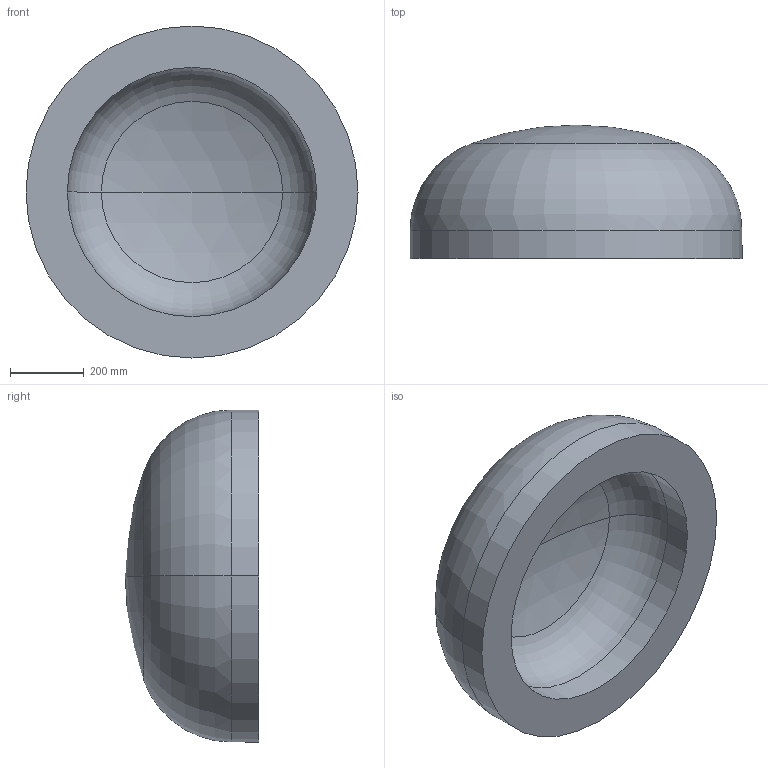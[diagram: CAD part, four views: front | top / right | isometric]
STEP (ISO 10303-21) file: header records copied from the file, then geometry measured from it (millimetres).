
FILE_DESCRIPTION (( 'STEP AP203' ), '1' );
FILE_NAME ('DIN 28013 Korbbogenform_-_Boden DIN 28013 - 900 x 75 - I - s=112.step', '2016-07-01T08:39:31', ( '' ), ( '' ), 'SwSTEP 2.0', 'SolidWorks 2013', '' );
FILE_SCHEMA (( 'CONFIG_CONTROL_DESIGN' ));
Length unit declared in the file: millimetre
Products named in the file (1): DIN 28013 Korbbogenform_-_Boden DIN 28013 - 900 x 75 - I - s=112
Bounding box: 900 x 361.84 x 900 mm (x, y, z)
Volume: 105781455.7 mm3; surface area: 2192490.8 mm2
Topology: 1 solids, 1 shells, 13 faces, 24 edges, 14 vertices
Faces by surface type: torus 4, cylinder 4, sphere 4, plane 1
Entity records: 407 total; most frequent: DIRECTION 72, CARTESIAN_POINT 52, ORIENTED_EDGE 48, AXIS2_PLACEMENT_3D 34, EDGE_CURVE 24, CIRCLE 20, EDGE_LOOP 14, VERTEX_POINT 14
